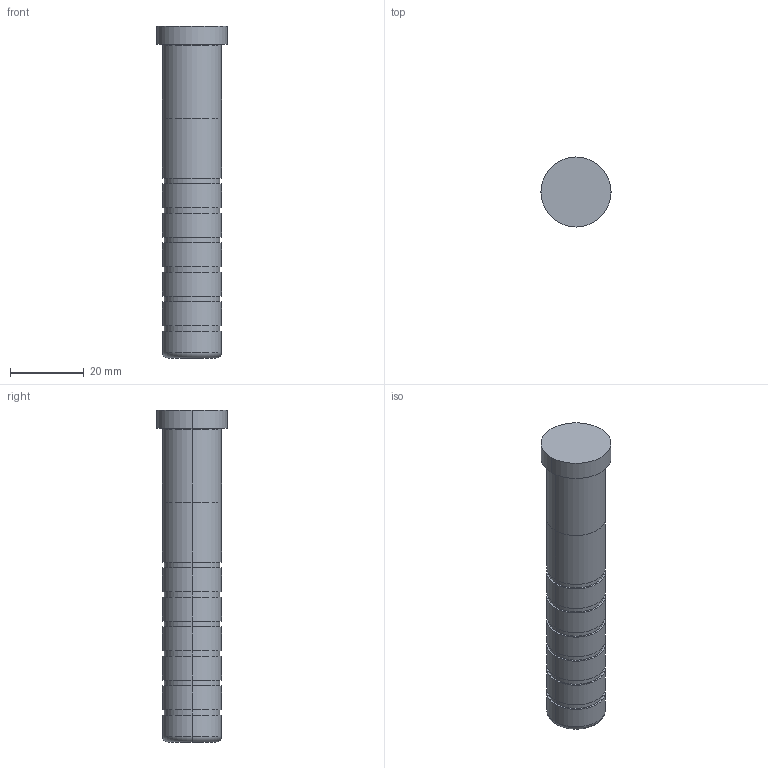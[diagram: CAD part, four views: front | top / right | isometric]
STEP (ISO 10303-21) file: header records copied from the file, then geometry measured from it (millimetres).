
FILE_DESCRIPTION(/* description */ (''),/* implementation_level */ '2;1');
FILE_NAME(/* name */ '3d_sgoh16-90_05234_r00.stp',/* time_stamp */ '2011-01-10T14:11:09+09:00',/* author */ ('MISUMI'),/* organization */ (''),/* preprocessor_version */ 'ST-DEVELOPER v11',/* originating_system */ 'UGS - NX 5.0',/* authorisation */ '');
FILE_SCHEMA (('CONFIG_CONTROL_DESIGN'));
Length unit declared in the file: millimetre
Products named in the file (1): 3d_sgoh16-90_05234_r00
Bounding box: 19 x 19 x 90 mm (x, y, z)
Volume: 18266.2 mm3; surface area: 5363.2 mm2
Topology: 1 solids, 1 shells, 49 faces, 96 edges, 62 vertices
Faces by surface type: cylinder 30, plane 15, torus 4
Entity records: 1374 total; most frequent: DIRECTION 262, CARTESIAN_POINT 208, ORIENTED_EDGE 192, AXIS2_PLACEMENT_3D 116, EDGE_CURVE 96, CIRCLE 66, EDGE_LOOP 62, VERTEX_POINT 62
